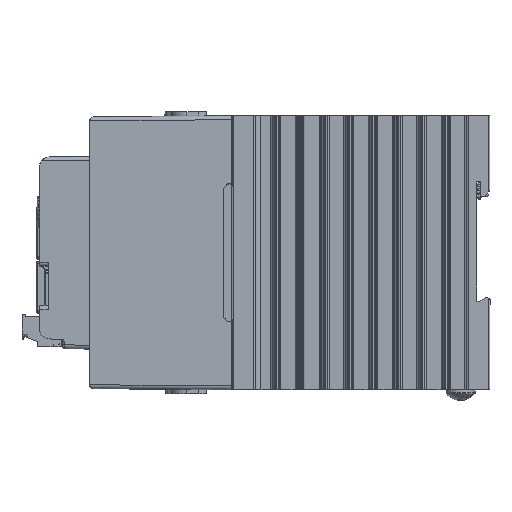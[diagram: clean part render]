
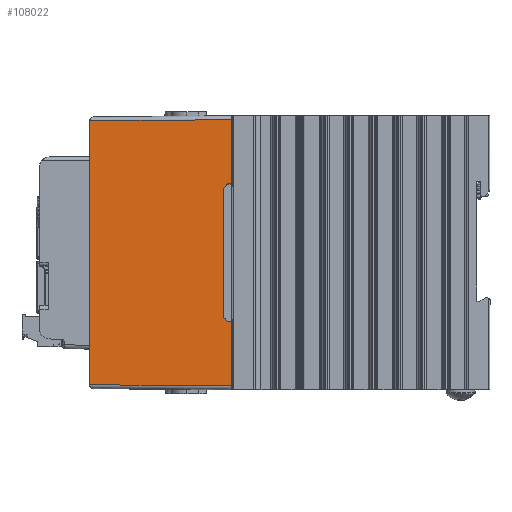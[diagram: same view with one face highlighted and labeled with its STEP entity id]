
A CAD part, left-side view. The second image highlights one B-rep face of the part: STEP entity #108022.
In plain terms, the highlighted planar face has unit normal (-1, 0.009, 0) as drawn and (1, 0, 0.009) by its records, which use the part's own axes.
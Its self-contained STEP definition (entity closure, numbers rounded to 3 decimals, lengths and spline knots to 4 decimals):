
#12358=FACE_OUTER_BOUND('',#18337,.T.);
#18337=EDGE_LOOP('',(#94995,#94996,#94997,#94998,#94999,#95000,#95001,#95002,
#95003,#95004));
#29350=LINE('',#187997,#41010);
#29480=LINE('',#188782,#41140);
#29486=LINE('',#188794,#41146);
#29490=LINE('',#188800,#41150);
#29492=LINE('',#188804,#41152);
#29494=LINE('',#188808,#41154);
#29495=LINE('',#188811,#41155);
#29840=LINE('',#189569,#41500);
#29842=LINE('',#189575,#41502);
#29843=LINE('',#189576,#41503);
#41010=VECTOR('',#141635,0.3937);
#41140=VECTOR('',#142011,0.3937);
#41146=VECTOR('',#142021,0.3937);
#41150=VECTOR('',#142029,0.3937);
#41152=VECTOR('',#142033,0.3937);
#41154=VECTOR('',#142037,0.3937);
#41155=VECTOR('',#142040,0.3937);
#41500=VECTOR('',#142765,0.3937);
#41502=VECTOR('',#142773,0.3937);
#41503=VECTOR('',#142774,0.3937);
#50947=VERTEX_POINT('',#187994);
#50948=VERTEX_POINT('',#187996);
#51051=VERTEX_POINT('',#188779);
#51052=VERTEX_POINT('',#188781);
#51055=VERTEX_POINT('',#188791);
#51056=VERTEX_POINT('',#188793);
#51057=VERTEX_POINT('',#188802);
#51058=VERTEX_POINT('',#188806);
#51059=VERTEX_POINT('',#188810);
#51259=VERTEX_POINT('',#189574);
#65521=EDGE_CURVE('',#50948,#50947,#29350,.T.);
#65709=EDGE_CURVE('',#51052,#51051,#29480,.T.);
#65715=EDGE_CURVE('',#51056,#51055,#29486,.T.);
#65719=EDGE_CURVE('',#51051,#51056,#29490,.T.);
#65721=EDGE_CURVE('',#51055,#51057,#29492,.T.);
#65723=EDGE_CURVE('',#51057,#51058,#29494,.T.);
#65724=EDGE_CURVE('',#51059,#51052,#29495,.T.);
#66090=EDGE_CURVE('',#51059,#50947,#29840,.T.);
#66093=EDGE_CURVE('',#51058,#51259,#29842,.T.);
#66094=EDGE_CURVE('',#50948,#51259,#29843,.T.);
#94995=ORIENTED_EDGE('',*,*,#65723,.T.);
#94996=ORIENTED_EDGE('',*,*,#66093,.T.);
#94997=ORIENTED_EDGE('',*,*,#66094,.F.);
#94998=ORIENTED_EDGE('',*,*,#65521,.T.);
#94999=ORIENTED_EDGE('',*,*,#66090,.F.);
#95000=ORIENTED_EDGE('',*,*,#65724,.T.);
#95001=ORIENTED_EDGE('',*,*,#65709,.T.);
#95002=ORIENTED_EDGE('',*,*,#65719,.T.);
#95003=ORIENTED_EDGE('',*,*,#65715,.T.);
#95004=ORIENTED_EDGE('',*,*,#65721,.T.);
#102861=PLANE('',#116345);
#108022=ADVANCED_FACE('',(#12358),#102861,.T.);
#116345=AXIS2_PLACEMENT_3D('',#189573,#142771,#142772);
#141635=DIRECTION('',(0.,-1.,0.));
#142011=DIRECTION('',(-0.009,0.009,1.));
#142021=DIRECTION('',(0.,1.,0.));
#142029=DIRECTION('',(-0.006,0.71,0.704));
#142033=DIRECTION('',(0.006,0.71,-0.704));
#142037=DIRECTION('',(0.009,0.009,-1.));
#142040=DIRECTION('',(0.,1.,0.));
#142765=DIRECTION('',(-0.009,0.009,1.));
#142771=DIRECTION('center_axis',(1.,0.,
0.009));
#142772=DIRECTION('ref_axis',(0.,1.,0.));
#142773=DIRECTION('',(0.,1.,0.));
#142774=DIRECTION('',(0.009,0.009,-1.));
#187994=CARTESIAN_POINT('',(1.3842,0.0658,1.811));
#187996=CARTESIAN_POINT('',(1.3842,3.4342,1.811));
#187997=CARTESIAN_POINT('',(1.3842,0.,1.811));
#188779=CARTESIAN_POINT('',(1.3995,0.8705,0.0521));
#188781=CARTESIAN_POINT('',(1.4,0.87,0.));
#188782=CARTESIAN_POINT('',(1.3996,0.8704,0.0436));
#188791=CARTESIAN_POINT('',(1.3991,2.5762,0.105));
#188793=CARTESIAN_POINT('',(1.3991,0.9238,0.105));
#188794=CARTESIAN_POINT('',(1.3991,3.0381,0.105));
#188800=CARTESIAN_POINT('',(1.3937,1.5503,0.726));
#188802=CARTESIAN_POINT('',(1.3995,2.6295,0.0521));
#188804=CARTESIAN_POINT('',(1.4015,2.859,-0.1754));
#188806=CARTESIAN_POINT('',(1.4,2.63,0.));
#188808=CARTESIAN_POINT('',(1.4,2.63,0.0023));
#188810=CARTESIAN_POINT('',(1.4,0.05,0.));
#188811=CARTESIAN_POINT('',(1.4,0.,0.));
#189569=CARTESIAN_POINT('',(1.3999,0.0501,0.0148));
#189573=CARTESIAN_POINT('Origin',(1.4,3.5,0.));
#189574=CARTESIAN_POINT('',(1.4,3.45,0.));
#189575=CARTESIAN_POINT('',(1.4,0.,0.));
#189576=CARTESIAN_POINT('',(1.4,3.45,0.0057));
